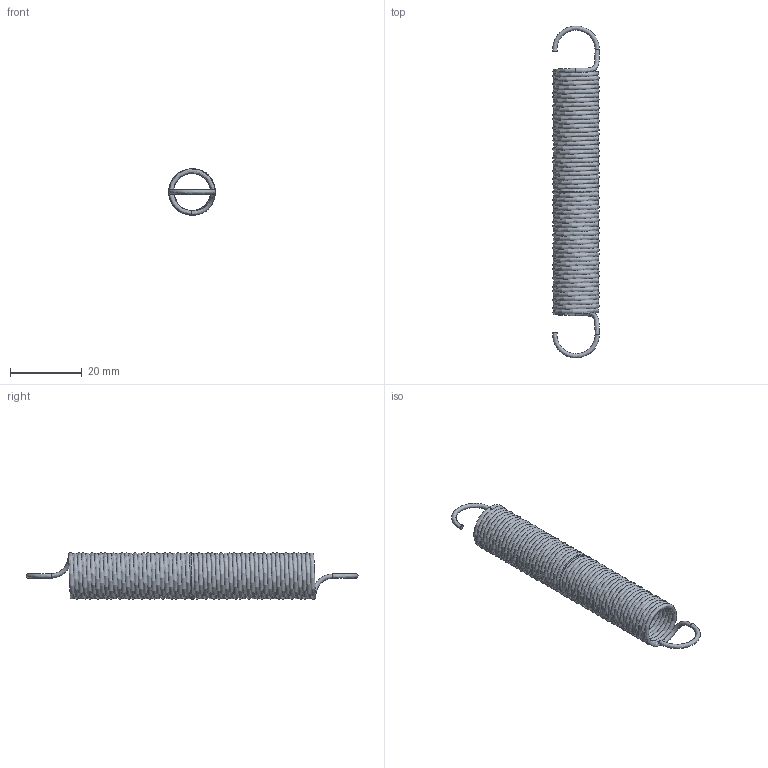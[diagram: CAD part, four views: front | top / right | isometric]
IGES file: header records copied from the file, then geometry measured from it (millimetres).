
Global section: file name: T11210; native system: Autodesk Inventor 2026; preprocessor: unknown; author: J. Iwanek; date: 20261005.095330; units: millimetre
Bounding box: 13 x 92.6 x 13 mm (x, y, z)
Volume: 2441 mm3; surface area: 8133.9 mm2
Topology: 1 solids, 1 shells, 10 faces, 32 edges, 20 vertices
Faces by surface type: bspline 10
